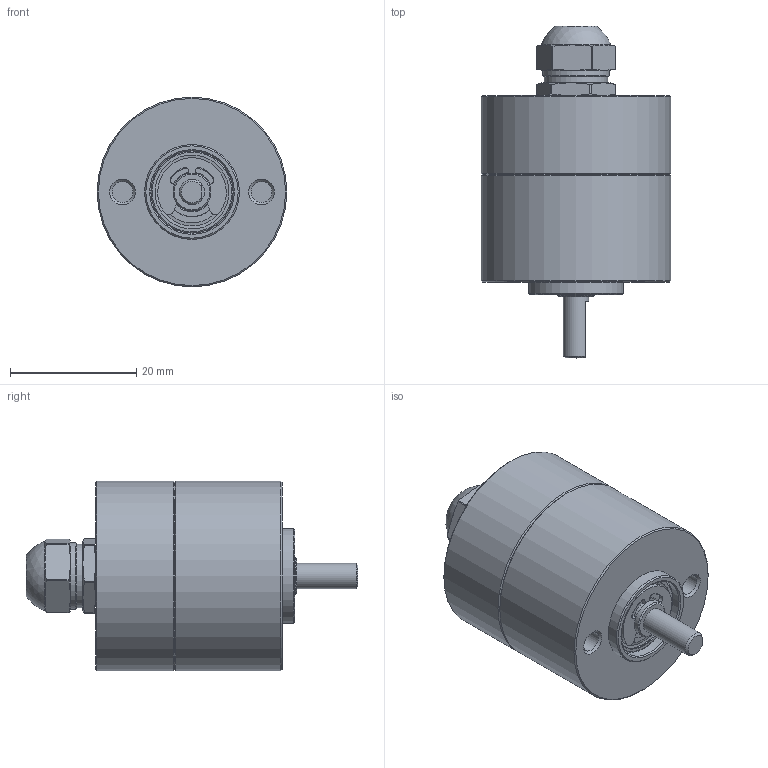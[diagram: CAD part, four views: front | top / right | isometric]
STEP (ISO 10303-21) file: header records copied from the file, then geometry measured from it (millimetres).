
FILE_DESCRIPTION (( 'STEP AP214' ), '1' );
FILE_NAME ('27-27xx0.STEP', '2020-12-22T10:02:25', ( '' ), ( '' ), 'SwSTEP 2.0', 'SolidWorks 2019', '' );
FILE_SCHEMA (( 'AUTOMOTIVE_DESIGN' ));
Length unit declared in the file: millimetre
Products named in the file (1): 27-27xx0
Bounding box: 30 x 52.5 x 30 mm (x, y, z)
Surface area: 5813.3 mm2 (no closed solid volume)
Topology: 0 solids, 12 shells, 102 faces, 254 edges, 167 vertices
Faces by surface type: cylinder 38, plane 34, cone 13, sphere 13, torus 4
Full cylindrical faces by diameter (mm): 3.3 x2, 4 x1, 5 x1, 6 x3, 7.9 x1, 10 x1, 10.5 x1, 11.7 x1, 13 x1, 15 x1, 30 x2
Entity records: 4002 total; most frequent: CARTESIAN_POINT 561, DIRECTION 527, ORIENTED_EDGE 363, AXIS2_PLACEMENT_3D 232, EDGE_CURVE 218, VERTEX_POINT 162, EDGE_LOOP 147, CIRCLE 129
